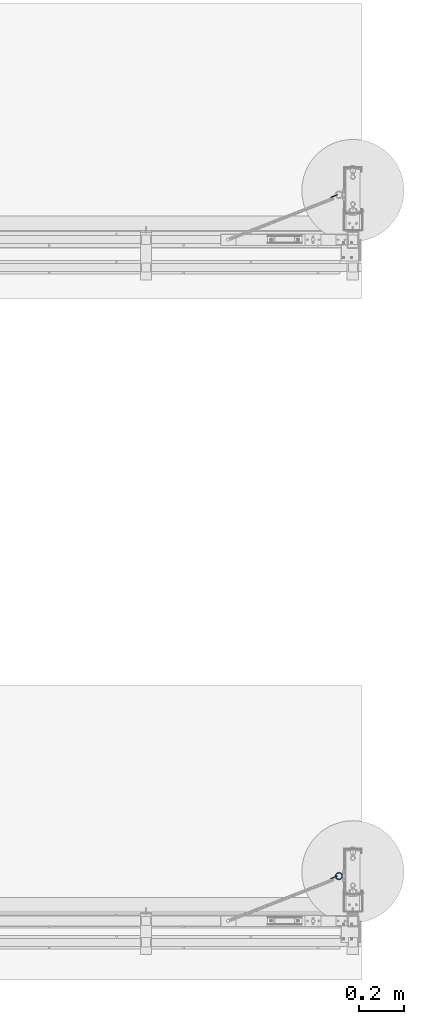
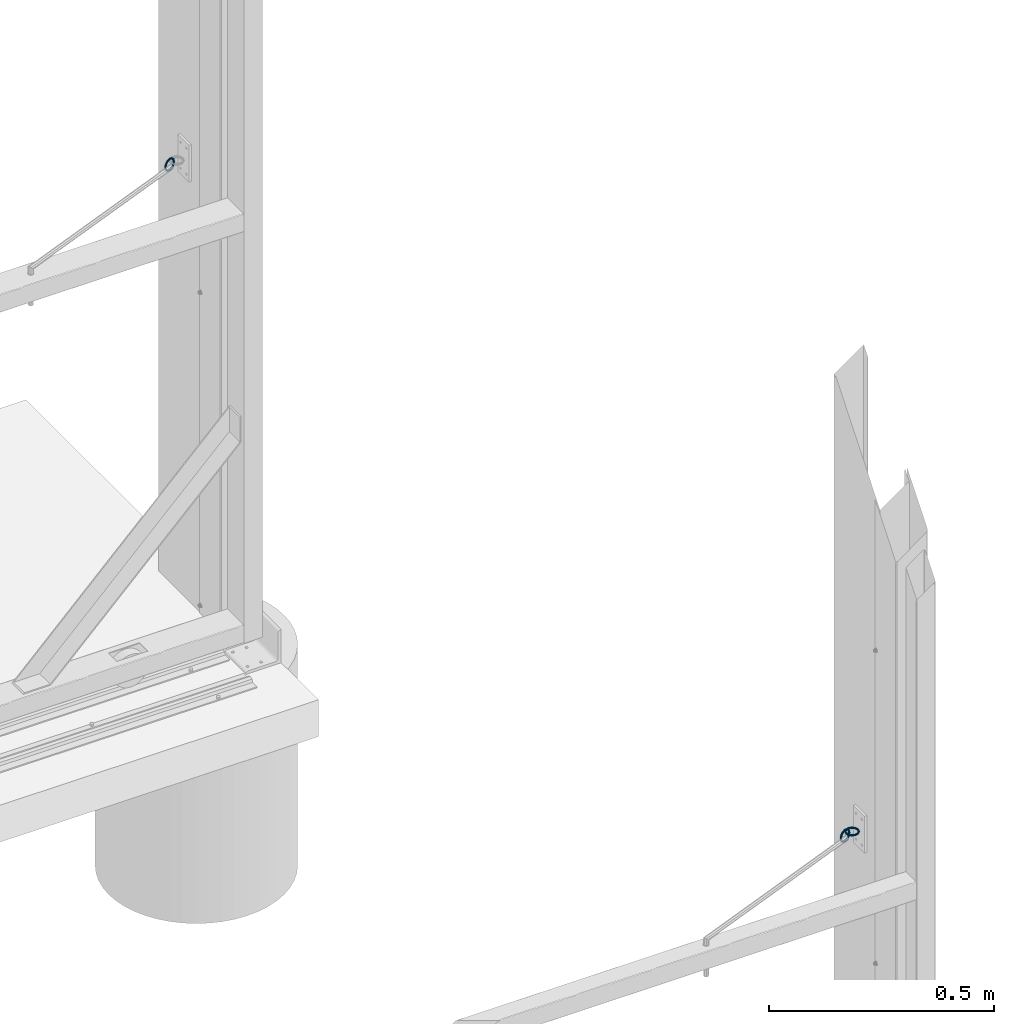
# One storey, part 87 of 91: 3 beams, 3 elements without a shape of their own.
"""IFC2X3 building model written with IfcOpenShell, lengths in millimetres."""

from ifc_helpers import new_model, si_unit, frame, origin_with_axes, place, context, subcontext, project, spatial, faceted_brep, material, type_object, element, aggregate, save


model = new_model("IFC2X3")

# Units and contexts
model_context = context("Model", 3, precision=1e-05, world=origin_with_axes())
body_context = subcontext(model_context, "Body", "Model", "MODEL_VIEW")
ifc_project = project(units=[si_unit("LENGTHUNIT", "METRE", prefix="MILLI"), si_unit("AREAUNIT", "SQUARE_METRE"), si_unit("VOLUMEUNIT", "CUBIC_METRE"), si_unit("MASSUNIT", "GRAM", prefix="KILO"), si_unit("TIMEUNIT", "SECOND"), si_unit("PLANEANGLEUNIT", "RADIAN"), si_unit("SOLIDANGLEUNIT", "STERADIAN"), si_unit("THERMODYNAMICTEMPERATUREUNIT", "DEGREE_CELSIUS"), si_unit("LUMINOUSINTENSITYUNIT", "LUMEN")], contexts=[model_context])

# Site, building, storey
site_placement = place(None, origin_with_axes())
site = spatial("IfcSite", under=ifc_project, at=site_placement, Name="Undefined", CompositionType="ELEMENT")
building_placement = place(site_placement, origin_with_axes())
building = spatial("IfcBuilding", under=site, at=building_placement, Name="Undefined", CompositionType="ELEMENT")
storey_placement = place(building_placement, origin_with_axes())
storey = spatial("IfcBuildingStorey", under=building, at=storey_placement, Name="Undefined", CompositionType="ELEMENT", Elevation=0.0)

# Assembly, beam
assembly_1_placement = place(storey_placement, origin_with_axes())
assembly_1 = element("IfcElementAssembly", 1, at=assembly_1_placement, inside=storey, Name="LINKS", AssemblyPlace="NOTDEFINED", PredefinedType="RIGID_FRAME")
ifc_material = material(Name="STEEL/250")
beam_type = type_object("IfcBeamType", Name="D5", PredefinedType="NOTDEFINED")
beam_1_placement = place(assembly_1_placement, frame((-107752.038125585, 87909.7835499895, 1147.33595884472), z_axis=(0.0, 0.0, 1.0), x_axis=(-0.931124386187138, -0.364701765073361, 0.0)))
beam_1 = element("IfcBeam", 2, at=beam_1_placement, type_object=beam_type, material=ifc_material, Name="LINKS", ObjectType="D5", context=body_context, shape_type="Brep", body=[
    faceted_brep([(28.2322322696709, -1.76776700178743, 14.8999996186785), (29.999999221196, -2.5000000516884, 14.8999996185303), (29.9999992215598, -2.50000005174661, 15.100000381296), (28.2322322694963, -1.76776700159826, 15.1000003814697), (31.767766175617, -1.76776700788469, 14.8999996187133), (31.7677661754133, -1.76776700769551, 15.1000003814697), (32.4999992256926, -5.6170392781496e-08, 14.8999996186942), (32.4999992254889, -5.59666659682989e-08, 15.1000003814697), (31.7677661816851, 1.76776689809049, 14.8999996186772), (31.7677661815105, 1.76776689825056, 15.1000003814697), (29.9999992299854, 2.49999994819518, 14.8999996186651), (29.9999992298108, 2.49999994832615, 15.1000003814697), (28.2322322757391, 1.76776690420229, 14.8999996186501), (28.232232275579, 1.76776690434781, 15.1000003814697), (27.4999992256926, -4.74974513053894e-08, 14.8999996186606), (27.4999992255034, -4.73810359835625e-08, 15.1000003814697), (25.8387142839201, -4.44706529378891e-08, 21.3000001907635), (26.4728467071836, 1.76776690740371, 21.666116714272), (28.0037777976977, 2.49999995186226, 22.5500001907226), (29.5347088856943, 1.76776690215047, 23.4338836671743), (30.1688413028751, -5.19503373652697e-08, 23.8000001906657), (29.5347088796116, -1.76776700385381, 23.4338836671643), (28.0037777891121, -2.50000004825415, 22.5500001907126), (26.4728467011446, -1.76776699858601, 21.6661167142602), (15.1008655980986, -2.49999993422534, 30.0000000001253), (22.5499994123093, -2.50000003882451, 28.0037785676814), (23.43388289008, -1.76776699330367, 29.5347096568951), (15.1008656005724, -1.767766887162, 31.7677669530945), (23.7999994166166, -4.09199856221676e-08, 30.1688420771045), (15.1008656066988, 6.58183125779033e-08, 32.5000000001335), (23.433882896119, 1.76776691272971, 29.5347096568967), (15.1008656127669, 1.76776701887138, 31.7677669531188), (22.5499994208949, 2.49999996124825, 28.0037785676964), (15.1008656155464, 2.50000006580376, 30.0), (15.1008656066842, 6.58328644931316e-08, 27.5000000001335), (21.2999994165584, -3.6612618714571e-08, 25.8387150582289), (21.6661159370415, -1.76776699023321, 26.4728474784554), (15.1008656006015, -1.76776688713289, 28.2322330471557), (15.0999996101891, 1.76776692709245, 28.2322330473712), (21.6661159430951, 1.76776691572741, 26.4728474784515), (26.4728467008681, -1.76776699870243, 8.33388328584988), (25.8387142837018, -4.46161720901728e-08, 8.69999980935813), (28.0037777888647, -2.50000004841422, 7.44999980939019), (29.5347088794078, -1.76776700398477, 6.56611633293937), (30.1688413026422, -5.2081304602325e-08, 6.19999980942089), (29.5347088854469, 1.7677669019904, 6.56611633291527), (28.0037777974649, 2.49999995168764, 7.44999980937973), (26.4728467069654, 1.7677669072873, 8.33388328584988), (21.2999994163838, -3.67290340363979e-08, 4.16128494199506), (21.666115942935, 1.76776691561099, 3.52715252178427), (21.6661159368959, -1.76776699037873, 3.52715252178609), (22.5499994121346, -2.50000003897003, 1.99622143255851), (23.4338828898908, -1.76776699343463, 0.465290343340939), (23.7999994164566, -4.10655047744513e-08, -0.168842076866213), (23.4338828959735, 1.76776691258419, 0.465290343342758), (22.5499994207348, 2.49999996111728, 1.99622143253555), (15.1008656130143, 1.76776701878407, 1.76776695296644), (15.1008656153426, 2.50000006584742, -8.84483597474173e-11), (15.1008656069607, 6.58183125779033e-08, 2.5), (15.100865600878, -1.76776688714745, 1.76776695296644), (15.1008655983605, -2.49999993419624, 0.0), (15.100865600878, -1.76776688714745, -1.76776695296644), (15.1008656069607, 6.58183125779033e-08, -2.5), (15.0999996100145, 1.76776692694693, -1.76776695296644), (-1.56690097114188, -1.76776683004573, 14.8999996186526), (0.200865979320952, -2.49999988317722, 14.8999996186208), (0.200865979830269, -2.49999988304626, 15.1000003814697), (-1.56690097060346, -1.76776682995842, 15.1000003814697), (1.96863293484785, -1.76776684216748, 14.8999996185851), (1.96863293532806, -1.76776684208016, 15.1000003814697), (2.70086598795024, 1.08309905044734e-07, 14.899999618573), (2.7008659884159, 1.08382664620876e-07, 15.1000003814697), (1.96863294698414, 1.7677670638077, 14.8999996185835), (1.96863294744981, 1.7677670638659, 15.1000003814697), (0.200865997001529, 2.50000011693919, 14.8999996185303), (0.200865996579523, 2.50000011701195, 15.1000003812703), (-1.56690095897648, 1.76776707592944, 14.899999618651), (-1.56690095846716, 1.7677670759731, 15.1000003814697), (-2.29913401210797, 1.25408405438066e-07, 14.8999996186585), (-2.2991340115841, 1.25524820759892e-07, 15.1000003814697), (0.0320239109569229, 1.17594026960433e-07, 23.8000001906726), (0.66615633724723, 1.76776706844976, 23.4338836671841), (2.19708742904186, 2.5000001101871, 22.5500001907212), (3.72801851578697, 1.76776705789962, 21.6661167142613), (4.36215092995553, 1.02707417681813e-07, 21.3000001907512), (3.72801850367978, -1.76776684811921, 21.6661167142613), (2.19708741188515, -2.49999988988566, 22.5500001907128), (0.666156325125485, -1.76776683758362, 23.43388366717), (7.65086578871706, -2.49999990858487, 28.0037785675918), (8.53474926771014, -1.76776686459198, 26.4728474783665), (8.90086579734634, 8.71368683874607e-08, 25.8387150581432), (8.53474927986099, 1.76776704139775, 26.4728474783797), (7.65086580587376, 2.50000009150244, 28.003778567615), (6.40086579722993, 9.57516022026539e-08, 30.1688420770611), (6.76698231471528, -1.76776685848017, 29.534709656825), (6.76698232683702, 1.76776704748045, 29.5347096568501), (0.666156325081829, -1.76776683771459, 6.5661163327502), (0.032023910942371, 1.1743395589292e-07, 6.19999980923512), (2.19708741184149, -2.49999988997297, 7.44999980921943), (3.72801850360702, -1.76776684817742, 8.33388328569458), (4.36215092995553, 1.02634658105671e-07, 8.69999980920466), (3.72801851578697, 1.76776705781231, 8.33388328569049), (2.19708742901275, 2.50000011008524, 7.44999980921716), (0.66615633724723, 1.76776706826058, 6.56611633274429), (6.40086579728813, 9.5635186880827e-08, -0.168842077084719), (6.76698232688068, 1.76776704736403, 0.465290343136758), (6.76698231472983, -1.76776685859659, 0.465290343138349), (7.65086578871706, -2.49999990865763, 1.99622143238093), (8.53474926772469, -1.76776686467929, 3.52715252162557), (8.90086579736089, 8.70786607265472e-08, 4.16128494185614), (8.5347492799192, 1.76776704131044, 3.52715252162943), (7.65086580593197, 2.50000009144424, 1.99622143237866)], [[[0, 1, 2, 3]], [[1, 4, 5, 2]], [[4, 6, 7, 5]], [[6, 8, 9, 7]], [[8, 10, 11, 9]], [[10, 12, 13, 11]], [[12, 14, 15, 13]], [[13, 15, 16, 17]], [[11, 13, 17, 18]], [[9, 11, 18, 19]], [[7, 9, 19, 20]], [[5, 7, 20, 21]], [[2, 5, 21, 22]], [[3, 2, 22, 23]], [[24, 25, 26, 27]], [[27, 26, 28, 29]], [[29, 28, 30, 31]], [[31, 30, 32, 33]], [[34, 35, 36, 37]], [[38, 39, 35, 34]], [[33, 32, 39, 38]], [[37, 36, 25, 24]], [[22, 25, 36, 23]], [[21, 26, 25, 22]], [[20, 28, 26, 21]], [[19, 30, 28, 20]], [[18, 32, 30, 19]], [[17, 39, 32, 18]], [[16, 35, 39, 17]], [[23, 36, 35, 16]], [[15, 3, 23, 16]], [[14, 0, 3, 15]], [[40, 0, 14, 41]], [[42, 1, 0, 40]], [[43, 4, 1, 42]], [[44, 6, 4, 43]], [[45, 8, 6, 44]], [[46, 10, 8, 45]], [[47, 12, 10, 46]], [[41, 14, 12, 47]], [[48, 41, 47, 49]], [[50, 40, 41, 48]], [[51, 42, 40, 50]], [[52, 43, 42, 51]], [[53, 44, 43, 52]], [[54, 45, 44, 53]], [[55, 46, 45, 54]], [[49, 47, 46, 55]], [[56, 49, 55, 57]], [[58, 48, 49, 56]], [[59, 50, 48, 58]], [[60, 51, 50, 59]], [[61, 52, 51, 60]], [[62, 53, 52, 61]], [[63, 54, 53, 62]], [[57, 55, 54, 63]], [[64, 65, 66, 67]], [[65, 68, 69, 66]], [[68, 70, 71, 69]], [[70, 72, 73, 71]], [[72, 74, 75, 73]], [[74, 76, 77, 75]], [[76, 78, 79, 77]], [[77, 79, 80, 81]], [[75, 77, 81, 82]], [[73, 75, 82, 83]], [[71, 73, 83, 84]], [[69, 71, 84, 85]], [[66, 69, 85, 86]], [[67, 66, 86, 87]], [[88, 89, 37, 24]], [[89, 90, 34, 37]], [[90, 91, 38, 34]], [[91, 92, 33, 38]], [[93, 94, 27, 29]], [[95, 93, 29, 31]], [[92, 95, 31, 33]], [[94, 88, 24, 27]], [[86, 88, 94, 87]], [[85, 89, 88, 86]], [[84, 90, 89, 85]], [[83, 91, 90, 84]], [[82, 92, 91, 83]], [[81, 95, 92, 82]], [[80, 93, 95, 81]], [[87, 94, 93, 80]], [[79, 67, 87, 80]], [[78, 64, 67, 79]], [[96, 64, 78, 97]], [[98, 65, 64, 96]], [[99, 68, 65, 98]], [[100, 70, 68, 99]], [[101, 72, 70, 100]], [[102, 74, 72, 101]], [[103, 76, 74, 102]], [[97, 78, 76, 103]], [[104, 97, 103, 105]], [[106, 96, 97, 104]], [[107, 98, 96, 106]], [[108, 99, 98, 107]], [[109, 100, 99, 108]], [[110, 101, 100, 109]], [[111, 102, 101, 110]], [[105, 103, 102, 111]], [[105, 111, 57, 63]], [[104, 105, 63, 62]], [[106, 104, 62, 61]], [[107, 106, 61, 60]], [[108, 107, 60, 59]], [[109, 108, 59, 58]], [[110, 109, 58, 56]], [[111, 110, 56, 57]]]),
])
aggregate(assembly_1, [beam_1])

assembly_2_placement = place(storey_placement, origin_with_axes())
assembly_2 = element("IfcElementAssembly", 3, at=assembly_2_placement, inside=storey, Name="LINKS", AssemblyPlace="NOTDEFINED", PredefinedType="RIGID_FRAME")
beam_2_placement = place(assembly_2_placement, frame((-107752.038125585, 84909.7835499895, 1147.33595884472), z_axis=(0.0, 0.0, 1.0), x_axis=(-0.931124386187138, -0.364701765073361, 0.0)))
beam_2 = element("IfcBeam", 4, at=beam_2_placement, type_object=beam_type, material=ifc_material, Name="LINKS", ObjectType="D5", context=body_context, shape_type="Brep", body=[
    faceted_brep([(28.2322322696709, -1.76776700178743, 14.8999996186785), (29.999999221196, -2.5000000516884, 14.8999996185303), (29.9999992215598, -2.50000005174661, 15.100000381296), (28.2322322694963, -1.76776700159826, 15.1000003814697), (31.767766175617, -1.76776700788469, 14.8999996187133), (31.7677661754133, -1.76776700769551, 15.1000003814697), (32.4999992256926, -5.6170392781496e-08, 14.8999996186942), (32.4999992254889, -5.59666659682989e-08, 15.1000003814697), (31.7677661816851, 1.76776689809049, 14.8999996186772), (31.7677661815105, 1.76776689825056, 15.1000003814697), (29.9999992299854, 2.49999994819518, 14.8999996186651), (29.9999992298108, 2.49999994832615, 15.1000003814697), (28.2322322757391, 1.76776690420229, 14.8999996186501), (28.232232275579, 1.76776690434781, 15.1000003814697), (27.4999992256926, -4.74974513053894e-08, 14.8999996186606), (27.4999992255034, -4.73810359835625e-08, 15.1000003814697), (25.8387142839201, -4.44706529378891e-08, 21.3000001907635), (26.4728467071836, 1.76776690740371, 21.666116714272), (28.0037777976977, 2.49999995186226, 22.5500001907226), (29.5347088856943, 1.76776690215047, 23.4338836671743), (30.1688413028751, -5.19503373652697e-08, 23.8000001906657), (29.5347088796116, -1.76776700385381, 23.4338836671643), (28.0037777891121, -2.50000004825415, 22.5500001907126), (26.4728467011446, -1.76776699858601, 21.6661167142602), (15.1008655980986, -2.49999993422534, 30.0000000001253), (22.5499994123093, -2.50000003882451, 28.0037785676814), (23.43388289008, -1.76776699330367, 29.5347096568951), (15.1008656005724, -1.767766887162, 31.7677669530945), (23.7999994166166, -4.09199856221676e-08, 30.1688420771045), (15.1008656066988, 6.58183125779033e-08, 32.5000000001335), (23.433882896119, 1.76776691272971, 29.5347096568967), (15.1008656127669, 1.76776701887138, 31.7677669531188), (22.5499994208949, 2.49999996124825, 28.0037785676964), (15.1008656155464, 2.50000006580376, 30.0), (15.1008656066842, 6.58328644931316e-08, 27.5000000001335), (21.2999994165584, -3.6612618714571e-08, 25.8387150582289), (21.6661159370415, -1.76776699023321, 26.4728474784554), (15.1008656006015, -1.76776688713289, 28.2322330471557), (15.0999996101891, 1.76776692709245, 28.2322330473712), (21.6661159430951, 1.76776691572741, 26.4728474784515), (26.4728467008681, -1.76776699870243, 8.33388328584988), (25.8387142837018, -4.46161720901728e-08, 8.69999980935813), (28.0037777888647, -2.50000004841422, 7.44999980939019), (29.5347088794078, -1.76776700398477, 6.56611633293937), (30.1688413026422, -5.2081304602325e-08, 6.19999980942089), (29.5347088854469, 1.7677669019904, 6.56611633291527), (28.0037777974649, 2.49999995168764, 7.44999980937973), (26.4728467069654, 1.7677669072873, 8.33388328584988), (21.2999994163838, -3.67290340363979e-08, 4.16128494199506), (21.666115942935, 1.76776691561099, 3.52715252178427), (21.6661159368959, -1.76776699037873, 3.52715252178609), (22.5499994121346, -2.50000003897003, 1.99622143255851), (23.4338828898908, -1.76776699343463, 0.465290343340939), (23.7999994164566, -4.10655047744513e-08, -0.168842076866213), (23.4338828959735, 1.76776691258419, 0.465290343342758), (22.5499994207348, 2.49999996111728, 1.99622143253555), (15.1008656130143, 1.76776701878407, 1.76776695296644), (15.1008656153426, 2.50000006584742, -8.84483597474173e-11), (15.1008656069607, 6.58183125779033e-08, 2.5), (15.100865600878, -1.76776688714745, 1.76776695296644), (15.1008655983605, -2.49999993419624, 0.0), (15.100865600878, -1.76776688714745, -1.76776695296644), (15.1008656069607, 6.58183125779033e-08, -2.5), (15.0999996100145, 1.76776692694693, -1.76776695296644), (-1.56690097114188, -1.76776683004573, 14.8999996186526), (0.200865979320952, -2.49999988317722, 14.8999996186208), (0.200865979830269, -2.49999988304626, 15.1000003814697), (-1.56690097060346, -1.76776682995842, 15.1000003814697), (1.96863293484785, -1.76776684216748, 14.8999996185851), (1.96863293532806, -1.76776684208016, 15.1000003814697), (2.70086598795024, 1.08309905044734e-07, 14.899999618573), (2.7008659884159, 1.08382664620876e-07, 15.1000003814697), (1.96863294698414, 1.7677670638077, 14.8999996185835), (1.96863294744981, 1.7677670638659, 15.1000003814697), (0.200865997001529, 2.50000011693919, 14.8999996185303), (0.200865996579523, 2.50000011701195, 15.1000003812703), (-1.56690095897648, 1.76776707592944, 14.899999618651), (-1.56690095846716, 1.7677670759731, 15.1000003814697), (-2.29913401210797, 1.25408405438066e-07, 14.8999996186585), (-2.2991340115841, 1.25524820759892e-07, 15.1000003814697), (0.0320239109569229, 1.17594026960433e-07, 23.8000001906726), (0.66615633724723, 1.76776706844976, 23.4338836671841), (2.19708742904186, 2.5000001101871, 22.5500001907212), (3.72801851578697, 1.76776705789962, 21.6661167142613), (4.36215092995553, 1.02707417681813e-07, 21.3000001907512), (3.72801850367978, -1.76776684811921, 21.6661167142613), (2.19708741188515, -2.49999988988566, 22.5500001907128), (0.666156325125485, -1.76776683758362, 23.43388366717), (7.65086578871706, -2.49999990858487, 28.0037785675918), (8.53474926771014, -1.76776686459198, 26.4728474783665), (8.90086579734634, 8.71368683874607e-08, 25.8387150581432), (8.53474927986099, 1.76776704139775, 26.4728474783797), (7.65086580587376, 2.50000009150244, 28.003778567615), (6.40086579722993, 9.57516022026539e-08, 30.1688420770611), (6.76698231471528, -1.76776685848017, 29.534709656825), (6.76698232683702, 1.76776704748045, 29.5347096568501), (0.666156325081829, -1.76776683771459, 6.5661163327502), (0.032023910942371, 1.1743395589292e-07, 6.19999980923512), (2.19708741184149, -2.49999988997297, 7.44999980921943), (3.72801850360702, -1.76776684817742, 8.33388328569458), (4.36215092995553, 1.02634658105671e-07, 8.69999980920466), (3.72801851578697, 1.76776705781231, 8.33388328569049), (2.19708742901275, 2.50000011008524, 7.44999980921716), (0.66615633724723, 1.76776706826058, 6.56611633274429), (6.40086579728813, 9.5635186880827e-08, -0.168842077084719), (6.76698232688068, 1.76776704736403, 0.465290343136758), (6.76698231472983, -1.76776685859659, 0.465290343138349), (7.65086578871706, -2.49999990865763, 1.99622143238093), (8.53474926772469, -1.76776686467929, 3.52715252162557), (8.90086579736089, 8.70786607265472e-08, 4.16128494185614), (8.5347492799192, 1.76776704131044, 3.52715252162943), (7.65086580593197, 2.50000009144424, 1.99622143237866)], [[[0, 1, 2, 3]], [[1, 4, 5, 2]], [[4, 6, 7, 5]], [[6, 8, 9, 7]], [[8, 10, 11, 9]], [[10, 12, 13, 11]], [[12, 14, 15, 13]], [[13, 15, 16, 17]], [[11, 13, 17, 18]], [[9, 11, 18, 19]], [[7, 9, 19, 20]], [[5, 7, 20, 21]], [[2, 5, 21, 22]], [[3, 2, 22, 23]], [[24, 25, 26, 27]], [[27, 26, 28, 29]], [[29, 28, 30, 31]], [[31, 30, 32, 33]], [[34, 35, 36, 37]], [[38, 39, 35, 34]], [[33, 32, 39, 38]], [[37, 36, 25, 24]], [[22, 25, 36, 23]], [[21, 26, 25, 22]], [[20, 28, 26, 21]], [[19, 30, 28, 20]], [[18, 32, 30, 19]], [[17, 39, 32, 18]], [[16, 35, 39, 17]], [[23, 36, 35, 16]], [[15, 3, 23, 16]], [[14, 0, 3, 15]], [[40, 0, 14, 41]], [[42, 1, 0, 40]], [[43, 4, 1, 42]], [[44, 6, 4, 43]], [[45, 8, 6, 44]], [[46, 10, 8, 45]], [[47, 12, 10, 46]], [[41, 14, 12, 47]], [[48, 41, 47, 49]], [[50, 40, 41, 48]], [[51, 42, 40, 50]], [[52, 43, 42, 51]], [[53, 44, 43, 52]], [[54, 45, 44, 53]], [[55, 46, 45, 54]], [[49, 47, 46, 55]], [[56, 49, 55, 57]], [[58, 48, 49, 56]], [[59, 50, 48, 58]], [[60, 51, 50, 59]], [[61, 52, 51, 60]], [[62, 53, 52, 61]], [[63, 54, 53, 62]], [[57, 55, 54, 63]], [[64, 65, 66, 67]], [[65, 68, 69, 66]], [[68, 70, 71, 69]], [[70, 72, 73, 71]], [[72, 74, 75, 73]], [[74, 76, 77, 75]], [[76, 78, 79, 77]], [[77, 79, 80, 81]], [[75, 77, 81, 82]], [[73, 75, 82, 83]], [[71, 73, 83, 84]], [[69, 71, 84, 85]], [[66, 69, 85, 86]], [[67, 66, 86, 87]], [[88, 89, 37, 24]], [[89, 90, 34, 37]], [[90, 91, 38, 34]], [[91, 92, 33, 38]], [[93, 94, 27, 29]], [[95, 93, 29, 31]], [[92, 95, 31, 33]], [[94, 88, 24, 27]], [[86, 88, 94, 87]], [[85, 89, 88, 86]], [[84, 90, 89, 85]], [[83, 91, 90, 84]], [[82, 92, 91, 83]], [[81, 95, 92, 82]], [[80, 93, 95, 81]], [[87, 94, 93, 80]], [[79, 67, 87, 80]], [[78, 64, 67, 79]], [[96, 64, 78, 97]], [[98, 65, 64, 96]], [[99, 68, 65, 98]], [[100, 70, 68, 99]], [[101, 72, 70, 100]], [[102, 74, 72, 101]], [[103, 76, 74, 102]], [[97, 78, 76, 103]], [[104, 97, 103, 105]], [[106, 96, 97, 104]], [[107, 98, 96, 106]], [[108, 99, 98, 107]], [[109, 100, 99, 108]], [[110, 101, 100, 109]], [[111, 102, 101, 110]], [[105, 103, 102, 111]], [[105, 111, 57, 63]], [[104, 105, 63, 62]], [[106, 104, 62, 61]], [[107, 106, 61, 60]], [[108, 107, 60, 59]], [[109, 108, 59, 58]], [[110, 109, 58, 56]], [[111, 110, 56, 57]]]),
])
aggregate(assembly_2, [beam_2])

assembly_3_placement = place(storey_placement, origin_with_axes())
assembly_3 = element("IfcElementAssembly", 5, at=assembly_3_placement, inside=storey, Name="LINKS", AssemblyPlace="NOTDEFINED", PredefinedType="RIGID_FRAME")
beam_3_placement = place(assembly_3_placement, frame((-107729.636959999, 84894.8948728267, 1162.34), z_axis=(0.0, 1.0, 0.0), x_axis=(-1.0, 0.0, 0.0)))
beam_3 = element("IfcBeam", 6, at=beam_3_placement, type_object=beam_type, material=ifc_material, Name="LINKS", ObjectType="D5", context=body_context, shape_type="Brep", body=[
    faceted_brep([(31.767766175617, -1.76776700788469, 14.8999996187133), (32.4999992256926, -5.6170392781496e-08, 14.8999996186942), (32.4999992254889, -5.59666659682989e-08, 15.1000003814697), (31.7677661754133, -1.76776700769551, 15.1000003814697), (31.7677661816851, 1.76776689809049, 14.8999996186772), (31.7677661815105, 1.76776689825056, 15.1000003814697), (29.9999992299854, 2.49999994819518, 14.8999996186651), (29.9999992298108, 2.49999994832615, 15.1000003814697), (28.2322322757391, 1.76776690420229, 14.8999996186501), (28.232232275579, 1.76776690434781, 15.1000003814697), (27.4999992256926, -4.74974513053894e-08, 14.8999996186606), (27.4999992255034, -4.73810359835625e-08, 15.1000003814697), (28.2322322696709, -1.76776700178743, 14.8999996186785), (28.2322322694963, -1.76776700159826, 15.1000003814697), (29.999999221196, -2.5000000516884, 14.8999996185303), (29.9999992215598, -2.50000005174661, 15.100000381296), (28.0037777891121, -2.50000004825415, 22.5500001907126), (26.4728467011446, -1.76776699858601, 21.6661167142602), (25.8387142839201, -4.44706529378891e-08, 21.3000001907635), (26.4728467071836, 1.76776690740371, 21.666116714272), (28.0037777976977, 2.49999995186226, 22.5500001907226), (29.5347088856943, 1.76776690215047, 23.4338836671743), (30.1688413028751, -5.19503373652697e-08, 23.8000001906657), (29.5347088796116, -1.76776700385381, 23.4338836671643), (15.1008655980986, -2.49999993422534, 30.0000000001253), (22.5499994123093, -2.50000003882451, 28.0037785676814), (23.43388289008, -1.76776699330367, 29.5347096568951), (15.1008656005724, -1.767766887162, 31.7677669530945), (15.1008656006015, -1.76776688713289, 28.2322330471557), (21.6661159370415, -1.76776699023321, 26.4728474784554), (15.1008656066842, 6.58328644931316e-08, 27.5000000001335), (21.2999994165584, -3.6612618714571e-08, 25.8387150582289), (15.1008670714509, 1.76776695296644, 28.2322330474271), (21.6661159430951, 1.76776691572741, 26.4728474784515), (15.1008656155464, 2.50000006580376, 30.0), (22.5499994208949, 2.49999996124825, 28.0037785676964), (15.1000003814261, 1.76776695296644, 31.767766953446), (23.433882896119, 1.76776691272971, 29.5347096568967), (15.1008656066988, 6.58183125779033e-08, 32.5000000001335), (23.7999994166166, -4.09199856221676e-08, 30.1688420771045), (29.5347088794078, -1.76776700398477, 6.56611633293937), (28.0037777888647, -2.50000004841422, 7.44999980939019), (30.1688413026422, -5.2081304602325e-08, 6.19999980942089), (29.5347088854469, 1.7677669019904, 6.56611633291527), (28.0037777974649, 2.49999995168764, 7.44999980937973), (26.4728467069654, 1.7677669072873, 8.33388328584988), (25.8387142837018, -4.46161720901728e-08, 8.69999980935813), (26.4728467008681, -1.76776699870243, 8.33388328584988), (22.5499994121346, -2.50000003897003, 1.99622143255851), (21.6661159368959, -1.76776699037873, 3.52715252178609), (23.4338828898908, -1.76776699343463, 0.465290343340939), (23.7999994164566, -4.10655047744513e-08, -0.168842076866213), (23.4338828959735, 1.76776691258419, 0.465290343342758), (22.5499994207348, 2.49999996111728, 1.99622143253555), (21.666115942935, 1.76776691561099, 3.52715252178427), (21.2999994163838, -3.67290340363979e-08, 4.16128494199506), (15.100865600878, -1.76776688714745, 1.76776695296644), (15.1008656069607, 6.58183125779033e-08, 2.5), (15.1008655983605, -2.49999993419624, 0.0), (15.100865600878, -1.76776688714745, -1.76776695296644), (15.1008656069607, 6.58183125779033e-08, -2.5), (15.1008670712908, 1.76776695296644, -1.76776695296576), (15.1008656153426, 2.50000006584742, -8.84483597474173e-11), (15.1000003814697, 1.76776695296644, 1.76776695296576), (-1.56690095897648, 1.76776707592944, 14.899999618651), (-2.29913401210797, 1.25408405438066e-07, 14.8999996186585), (-2.2991340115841, 1.25524820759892e-07, 15.1000003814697), (-1.56690095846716, 1.7677670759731, 15.1000003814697), (-1.56690097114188, -1.76776683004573, 14.8999996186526), (-1.56690097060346, -1.76776682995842, 15.1000003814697), (0.200865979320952, -2.49999988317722, 14.8999996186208), (0.200865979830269, -2.49999988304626, 15.1000003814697), (1.96863293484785, -1.76776684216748, 14.8999996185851), (1.96863293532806, -1.76776684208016, 15.1000003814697), (2.70086598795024, 1.08309905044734e-07, 14.899999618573), (2.7008659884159, 1.08382664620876e-07, 15.1000003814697), (1.96863294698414, 1.7677670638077, 14.8999996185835), (1.96863294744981, 1.7677670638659, 15.1000003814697), (0.200865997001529, 2.50000011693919, 14.8999996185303), (0.200865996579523, 2.50000011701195, 15.1000003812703), (2.19708742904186, 2.5000001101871, 22.5500001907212), (3.72801851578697, 1.76776705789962, 21.6661167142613), (4.36215092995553, 1.02707417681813e-07, 21.3000001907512), (3.72801850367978, -1.76776684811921, 21.6661167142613), (2.19708741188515, -2.49999988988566, 22.5500001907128), (0.666156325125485, -1.76776683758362, 23.43388366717), (0.0320239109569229, 1.17594026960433e-07, 23.8000001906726), (0.66615633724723, 1.76776706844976, 23.4338836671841), (7.65086580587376, 2.50000009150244, 28.003778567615), (6.76698232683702, 1.76776704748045, 29.5347096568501), (8.53474927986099, 1.76776704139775, 26.4728474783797), (8.90086579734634, 8.71368683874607e-08, 25.8387150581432), (8.53474926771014, -1.76776686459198, 26.4728474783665), (7.65086578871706, -2.49999990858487, 28.0037785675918), (6.76698231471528, -1.76776685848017, 29.534709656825), (6.40086579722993, 9.57516022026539e-08, 30.1688420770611), (0.66615633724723, 1.76776706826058, 6.56611633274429), (2.19708742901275, 2.50000011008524, 7.44999980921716), (0.032023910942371, 1.1743395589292e-07, 6.19999980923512), (0.666156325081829, -1.76776683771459, 6.5661163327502), (2.19708741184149, -2.49999988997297, 7.44999980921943), (3.72801850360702, -1.76776684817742, 8.33388328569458), (4.36215092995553, 1.02634658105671e-07, 8.69999980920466), (3.72801851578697, 1.76776705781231, 8.33388328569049), (7.65086580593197, 2.50000009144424, 1.99622143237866), (8.5347492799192, 1.76776704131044, 3.52715252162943), (6.76698232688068, 1.76776704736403, 0.465290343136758), (6.40086579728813, 9.5635186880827e-08, -0.168842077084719), (6.76698231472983, -1.76776685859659, 0.465290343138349), (7.65086578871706, -2.49999990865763, 1.99622143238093), (8.53474926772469, -1.76776686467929, 3.52715252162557), (8.90086579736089, 8.70786607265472e-08, 4.16128494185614)], [[[0, 1, 2, 3]], [[1, 4, 5, 2]], [[4, 6, 7, 5]], [[6, 8, 9, 7]], [[8, 10, 11, 9]], [[10, 12, 13, 11]], [[12, 14, 15, 13]], [[13, 15, 16, 17]], [[11, 13, 17, 18]], [[9, 11, 18, 19]], [[7, 9, 19, 20]], [[5, 7, 20, 21]], [[2, 5, 21, 22]], [[3, 2, 22, 23]], [[24, 25, 26, 27]], [[28, 29, 25, 24]], [[30, 31, 29, 28]], [[32, 33, 31, 30]], [[34, 35, 33, 32]], [[36, 37, 35, 34]], [[38, 39, 37, 36]], [[27, 26, 39, 38]], [[22, 39, 26, 23]], [[21, 37, 39, 22]], [[20, 35, 37, 21]], [[19, 33, 35, 20]], [[18, 31, 33, 19]], [[17, 29, 31, 18]], [[16, 25, 29, 17]], [[23, 26, 25, 16]], [[15, 3, 23, 16]], [[14, 0, 3, 15]], [[40, 0, 14, 41]], [[42, 1, 0, 40]], [[43, 4, 1, 42]], [[44, 6, 4, 43]], [[45, 8, 6, 44]], [[46, 10, 8, 45]], [[47, 12, 10, 46]], [[41, 14, 12, 47]], [[48, 41, 47, 49]], [[50, 40, 41, 48]], [[51, 42, 40, 50]], [[52, 43, 42, 51]], [[53, 44, 43, 52]], [[54, 45, 44, 53]], [[55, 46, 45, 54]], [[49, 47, 46, 55]], [[56, 49, 55, 57]], [[58, 48, 49, 56]], [[59, 50, 48, 58]], [[60, 51, 50, 59]], [[61, 52, 51, 60]], [[62, 53, 52, 61]], [[63, 54, 53, 62]], [[57, 55, 54, 63]], [[64, 65, 66, 67]], [[65, 68, 69, 66]], [[68, 70, 71, 69]], [[70, 72, 73, 71]], [[72, 74, 75, 73]], [[74, 76, 77, 75]], [[76, 78, 79, 77]], [[77, 79, 80, 81]], [[75, 77, 81, 82]], [[73, 75, 82, 83]], [[71, 73, 83, 84]], [[69, 71, 84, 85]], [[66, 69, 85, 86]], [[67, 66, 86, 87]], [[88, 89, 36, 34]], [[90, 88, 34, 32]], [[91, 90, 32, 30]], [[92, 91, 30, 28]], [[93, 92, 28, 24]], [[94, 93, 24, 27]], [[95, 94, 27, 38]], [[89, 95, 38, 36]], [[86, 95, 89, 87]], [[85, 94, 95, 86]], [[84, 93, 94, 85]], [[83, 92, 93, 84]], [[82, 91, 92, 83]], [[81, 90, 91, 82]], [[80, 88, 90, 81]], [[87, 89, 88, 80]], [[79, 67, 87, 80]], [[78, 64, 67, 79]], [[96, 64, 78, 97]], [[98, 65, 64, 96]], [[99, 68, 65, 98]], [[100, 70, 68, 99]], [[101, 72, 70, 100]], [[102, 74, 72, 101]], [[103, 76, 74, 102]], [[97, 78, 76, 103]], [[104, 97, 103, 105]], [[106, 96, 97, 104]], [[107, 98, 96, 106]], [[108, 99, 98, 107]], [[109, 100, 99, 108]], [[110, 101, 100, 109]], [[111, 102, 101, 110]], [[105, 103, 102, 111]], [[105, 111, 57, 63]], [[104, 105, 63, 62]], [[106, 104, 62, 61]], [[107, 106, 61, 60]], [[108, 107, 60, 59]], [[109, 108, 59, 58]], [[110, 109, 58, 56]], [[111, 110, 56, 57]]]),
])
aggregate(assembly_3, [beam_3])

save(model, "model.ifc")
